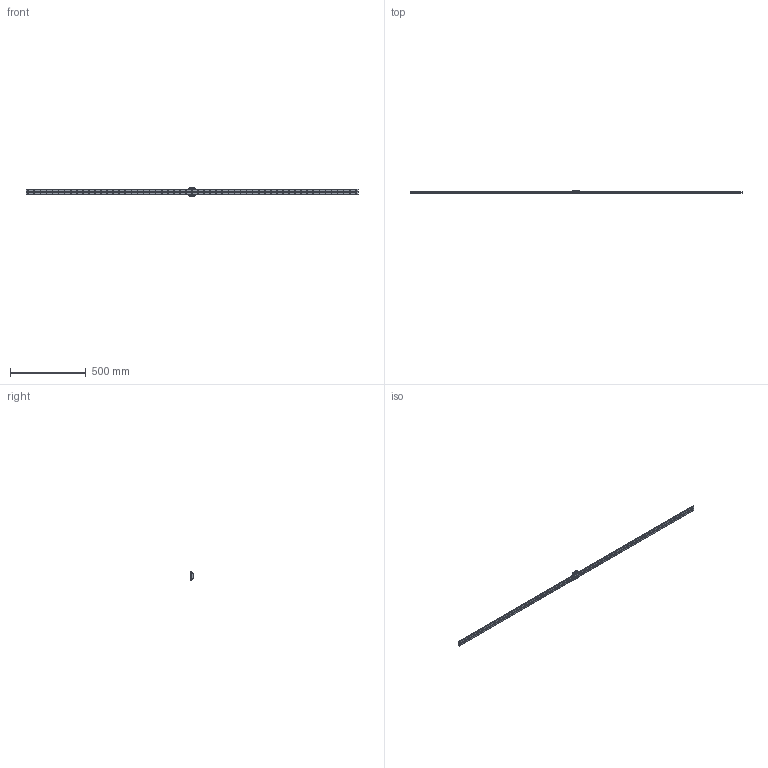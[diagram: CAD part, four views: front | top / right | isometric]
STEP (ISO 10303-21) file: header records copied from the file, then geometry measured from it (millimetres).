
FILE_DESCRIPTION(/* description */ ('STEP AP214'),/* implementation_level */ '2;1');
FILE_NAME(/* name */ 'HRW17CA1M-2190LTM_G15_0_PB107_1070-4_0_0_0_1',/* time_stamp */ '2023-09-26T15:08:29+02:00',/* author */ ('License CC BY-ND 4.0'),/* organization */ ('CADENAS'),/* preprocessor_version */ 'ST-DEVELOPER v19.3',/* originating_system */ 'PARTsolutions',/* authorisation */ ' ');
FILE_SCHEMA (('AUTOMOTIVE_DESIGN {1 0 10303 214 3 1 1}'));
Length unit declared in the file: millimetre
Products named in the file (4): HRW17CA1M-2190LTM_G15_0_PB107_1070-4_0_0_0_1; HRW-PB107_grease_nipple_joint; HRW17CAPB1071 Slide17-60; HRW17CA219015 Track
Assembly tree (3 placements, depth 2):
  HRW17CA1M-2190LTM_G15_0_PB107_1070-4_0_0_0_1
    HRW-PB107_grease_nipple_joint
    HRW17CAPB1071 Slide17-60
    HRW17CA219015 Track
Bounding box: 2190 x 17 x 60 mm (x, y, z)
Volume: 592668.4 mm3; surface area: 215815.8 mm2
Topology: 3 solids, 3 shells, 522 faces, 1176 edges, 778 vertices
Faces by surface type: cylinder 253, plane 252, cone 12, torus 4, sphere 1
Full cylindrical faces by diameter (mm): 3 x3, 3.242 x2, 3.3 x4, 3.5 x1, 4.5 x111, 6 x2, 7.5 x110
Entity records: 14069 total; most frequent: DIRECTION 2496, CARTESIAN_POINT 2274, ORIENTED_EDGE 1848, EDGE_LOOP 1122, FACE_BOUND 1122, AXIS2_PLACEMENT_3D 1058, EDGE_CURVE 924, VERTEX_POINT 776
